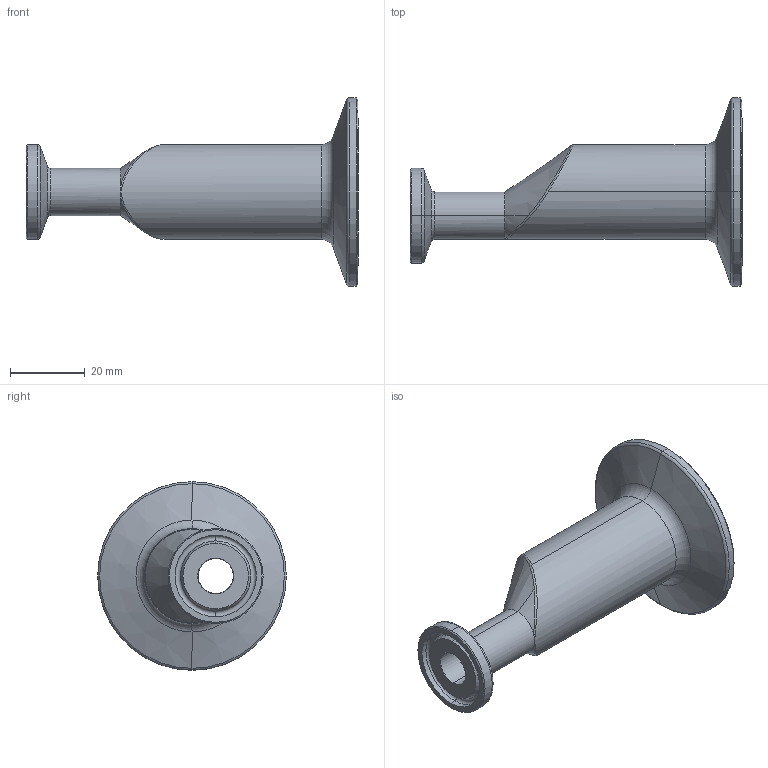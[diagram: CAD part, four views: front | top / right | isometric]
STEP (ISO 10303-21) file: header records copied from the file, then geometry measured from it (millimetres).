
FILE_DESCRIPTION (( 'STEP AP214' ), '1' );
FILE_NAME ('TEG32SCC6L1.0x.5-...STEP', '2016-06-01T12:35:09', ( 'eran' ), ( '' ), 'SwSTEP 2.0', 'SolidWorks 2016', '' );
FILE_SCHEMA (( 'AUTOMOTIVE_DESIGN' ));
Length unit declared in the file: millimetre
Products named in the file (1): TEG32SCC6L1.0x.5-..
Bounding box: 88.9 x 50.5 x 50.5 mm (x, y, z)
Volume: 28404 mm3; surface area: 13633.9 mm2
Topology: 1 solids, 1 shells, 70 faces, 150 edges, 82 vertices
Faces by surface type: cone 27, torus 19, cylinder 17, plane 4, bspline 3
Entity records: 2531 total; most frequent: CARTESIAN_POINT 989, DIRECTION 350, ORIENTED_EDGE 296, AXIS2_PLACEMENT_3D 155, EDGE_CURVE 148, CIRCLE 87, VERTEX_POINT 82, EDGE_LOOP 74
